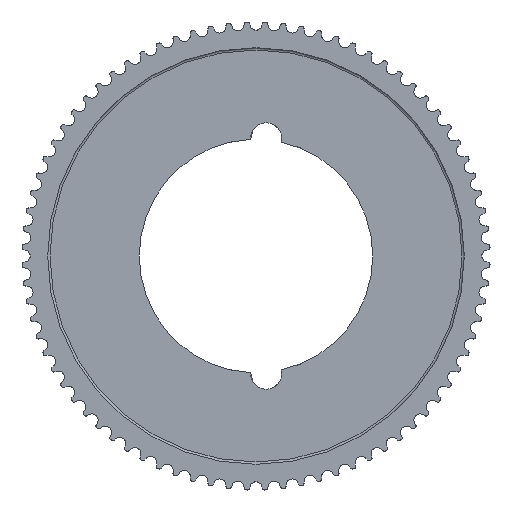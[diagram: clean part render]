
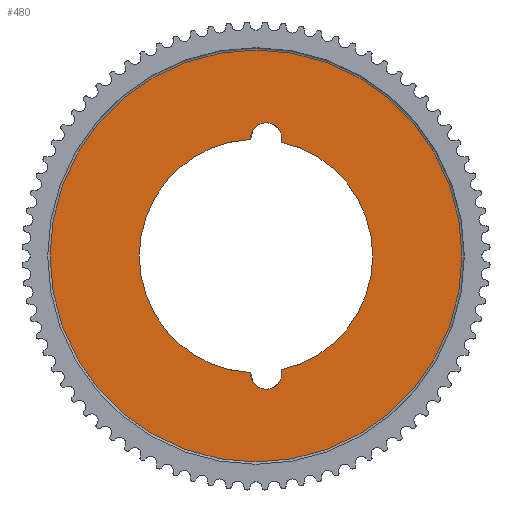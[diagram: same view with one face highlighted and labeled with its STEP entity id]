
A CAD part, left-side view. The second image highlights one B-rep face of the part: STEP entity #480.
In plain terms, the highlighted planar face has unit normal (-1, 0, 0).
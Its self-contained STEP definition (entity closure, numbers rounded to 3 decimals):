
#480 = ADVANCED_FACE( '', ( #1384, #1385 ), #1386, .T. );
#1384 = FACE_BOUND( '', #2380, .T. );
#1385 = FACE_OUTER_BOUND( '', #2381, .T. );
#1386 = PLANE( '', #2382 );
#2380 = EDGE_LOOP( '', ( #5871, #5872, #5873, #5874 ) );
#2381 = EDGE_LOOP( '', ( #5875 ) );
#2382 = AXIS2_PLACEMENT_3D( '', #5876, #5877, #5878 );
#5871 = ORIENTED_EDGE( '', *, *, #8343, .F. );
#5872 = ORIENTED_EDGE( '', *, *, #8344, .T. );
#5873 = ORIENTED_EDGE( '', *, *, #8345, .F. );
#5874 = ORIENTED_EDGE( '', *, *, #8346, .T. );
#5875 = ORIENTED_EDGE( '', *, *, #8347, .F. );
#5876 = CARTESIAN_POINT( '', ( 4.5, 89., 0. ) );
#5877 = DIRECTION( '', ( -1., 0., 0. ) );
#5878 = DIRECTION( '', ( 0., 0., 1. ) );
#8343 = EDGE_CURVE( '', #10778, #10779, #10780, .T. );
#8344 = EDGE_CURVE( '', #10778, #10781, #10782, .T. );
#8345 = EDGE_CURVE( '', #10783, #10781, #10784, .T. );
#8346 = EDGE_CURVE( '', #10783, #10779, #10785, .T. );
#8347 = EDGE_CURVE( '', #10786, #10786, #10787, .T. );
#10778 = VERTEX_POINT( '', #14043 );
#10779 = VERTEX_POINT( '', #14044 );
#10780 = CIRCLE( '', #14045, 6.75 );
#10781 = VERTEX_POINT( '', #14046 );
#10782 = CIRCLE( '', #14047, 50.434 );
#10783 = VERTEX_POINT( '', #14048 );
#10784 = CIRCLE( '', #14049, 6.75 );
#10785 = CIRCLE( '', #14050, 50.434 );
#10786 = VERTEX_POINT( '', #14051 );
#10787 = CIRCLE( '', #14052, 89. );
#14043 = CARTESIAN_POINT( '', ( 4.5, 2.309, -50.381 ) );
#14044 = CARTESIAN_POINT( '', ( 4.5, -10.99, -49.222 ) );
#14045 = AXIS2_PLACEMENT_3D( '', #16679, #16680, #16681 );
#14046 = CARTESIAN_POINT( '', ( 4.5, 2.309, 50.381 ) );
#14047 = AXIS2_PLACEMENT_3D( '', #16682, #16683, #16684 );
#14048 = CARTESIAN_POINT( '', ( 4.5, -10.99, 49.222 ) );
#14049 = AXIS2_PLACEMENT_3D( '', #16685, #16686, #16687 );
#14050 = AXIS2_PLACEMENT_3D( '', #16688, #16689, #16690 );
#14051 = CARTESIAN_POINT( '', ( 4.5, 0., -89. ) );
#14052 = AXIS2_PLACEMENT_3D( '', #16691, #16692, #16693 );
#16679 = CARTESIAN_POINT( '', ( 4.5, -4.428, -50.8 ) );
#16680 = DIRECTION( '', ( -1., 0., 0. ) );
#16681 = DIRECTION( '', ( 0., 0., 1. ) );
#16682 = CARTESIAN_POINT( '', ( 4.5, 0., 0. ) );
#16683 = DIRECTION( '', ( 1., 0., 0. ) );
#16684 = DIRECTION( '', ( 0., 0., -1. ) );
#16685 = CARTESIAN_POINT( '', ( 4.5, -4.428, 50.8 ) );
#16686 = DIRECTION( '', ( -1., 0., 0. ) );
#16687 = DIRECTION( '', ( 0., 0., 1. ) );
#16688 = CARTESIAN_POINT( '', ( 4.5, 0., 0. ) );
#16689 = DIRECTION( '', ( 1., 0., 0. ) );
#16690 = DIRECTION( '', ( 0., 0., -1. ) );
#16691 = CARTESIAN_POINT( '', ( 4.5, 0., 0. ) );
#16692 = DIRECTION( '', ( 1., 0., 0. ) );
#16693 = DIRECTION( '', ( 0., 0., -1. ) );
